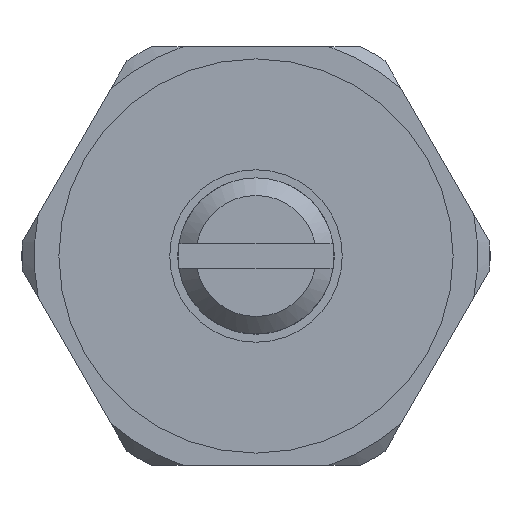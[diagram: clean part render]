
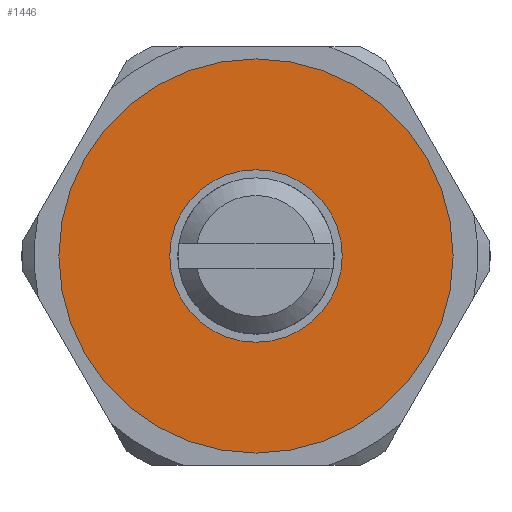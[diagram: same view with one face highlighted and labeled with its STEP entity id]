
A CAD part, left-side view. The second image highlights one B-rep face of the part: STEP entity #1446.
In plain terms, the highlighted planar face has unit normal (-1, 0, 0).
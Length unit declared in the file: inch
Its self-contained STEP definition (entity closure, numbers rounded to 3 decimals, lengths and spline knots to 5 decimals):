
#68=FACE_BOUND('',#224,.T.);
#88=PLANE('',#1590);
#142=FACE_OUTER_BOUND('',#223,.T.);
#223=EDGE_LOOP('',(#1073,#1074));
#224=EDGE_LOOP('',(#1075,#1076));
#416=CIRCLE('',#1518,0.1378);
#417=CIRCLE('',#1519,0.1378);
#452=CIRCLE('',#1588,0.31496);
#453=CIRCLE('',#1589,0.31496);
#526=VERTEX_POINT('',#2159);
#527=VERTEX_POINT('',#2160);
#586=VERTEX_POINT('',#2394);
#587=VERTEX_POINT('',#2395);
#670=EDGE_CURVE('',#526,#527,#416,.T.);
#671=EDGE_CURVE('',#527,#526,#417,.T.);
#763=EDGE_CURVE('',#586,#587,#452,.T.);
#764=EDGE_CURVE('',#587,#586,#453,.T.);
#1073=ORIENTED_EDGE('',*,*,#763,.T.);
#1074=ORIENTED_EDGE('',*,*,#764,.T.);
#1075=ORIENTED_EDGE('',*,*,#670,.T.);
#1076=ORIENTED_EDGE('',*,*,#671,.T.);
#1446=ADVANCED_FACE('',(#142,#68),#88,.T.);
#1518=AXIS2_PLACEMENT_3D('',#2161,#1716,#1717);
#1519=AXIS2_PLACEMENT_3D('',#2162,#1718,#1719);
#1588=AXIS2_PLACEMENT_3D('',#2396,#1889,#1890);
#1589=AXIS2_PLACEMENT_3D('',#2397,#1891,#1892);
#1590=AXIS2_PLACEMENT_3D('',#2399,#1894,#1895);
#1716=DIRECTION('center_axis',(1.,0.,0.));
#1717=DIRECTION('ref_axis',(0.,0.,1.));
#1718=DIRECTION('center_axis',(1.,0.,0.));
#1719=DIRECTION('ref_axis',(0.,0.,1.));
#1889=DIRECTION('center_axis',(-1.,0.,0.));
#1890=DIRECTION('ref_axis',(0.,0.,1.));
#1891=DIRECTION('center_axis',(-1.,0.,0.));
#1892=DIRECTION('ref_axis',(0.,0.,1.));
#1894=DIRECTION('center_axis',(-1.,0.,0.));
#1895=DIRECTION('ref_axis',(0.,0.,1.));
#2159=CARTESIAN_POINT('',(-2.21862,-0.42833,0.56421));
#2160=CARTESIAN_POINT('',(-2.21862,-0.42833,0.28862));
#2161=CARTESIAN_POINT('Origin',(-2.21862,-0.42833,0.42641));
#2162=CARTESIAN_POINT('Origin',(-2.21862,-0.42833,0.42641));
#2394=CARTESIAN_POINT('',(-2.21862,-0.42833,0.74137));
#2395=CARTESIAN_POINT('',(-2.21862,-0.42833,0.11145));
#2396=CARTESIAN_POINT('Origin',(-2.21862,-0.42833,0.42641));
#2397=CARTESIAN_POINT('Origin',(-2.21862,-0.42833,0.42641));
#2399=CARTESIAN_POINT('Origin',(-2.21862,-0.42833,0.42641));
